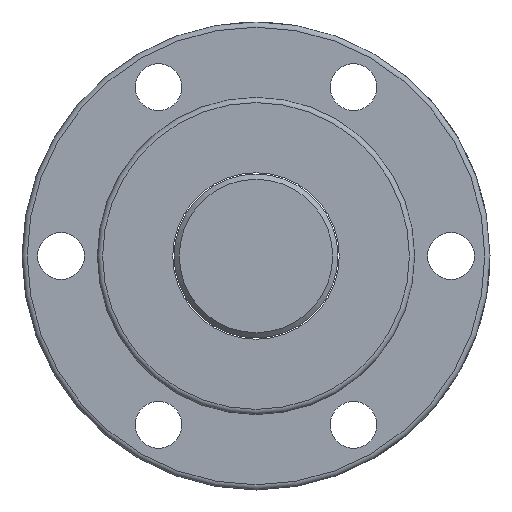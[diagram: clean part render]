
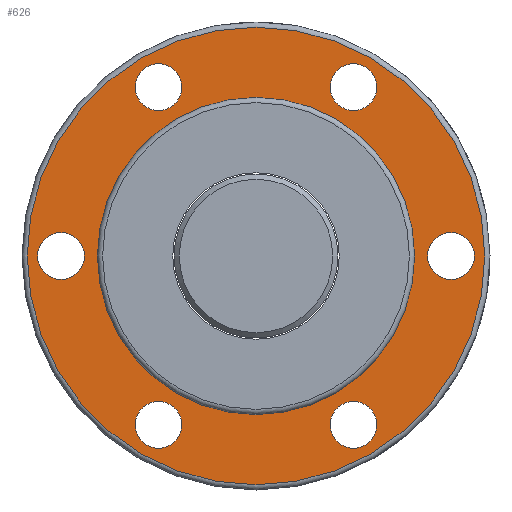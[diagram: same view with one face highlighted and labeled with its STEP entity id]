
A CAD part, left-side view. The second image highlights one B-rep face of the part: STEP entity #626.
In plain terms, the highlighted planar face has unit normal (-1, 0, 0).
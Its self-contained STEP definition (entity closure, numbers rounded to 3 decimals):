
#99=PLANE('',#749);
#194=ORIENTED_EDGE('',*,*,#275,.F.);
#195=ORIENTED_EDGE('',*,*,#284,.T.);
#196=ORIENTED_EDGE('',*,*,#274,.F.);
#197=ORIENTED_EDGE('',*,*,#270,.F.);
#198=ORIENTED_EDGE('',*,*,#266,.F.);
#199=ORIENTED_EDGE('',*,*,#262,.F.);
#200=ORIENTED_EDGE('',*,*,#258,.F.);
#201=ORIENTED_EDGE('',*,*,#254,.F.);
#254=EDGE_CURVE('',#318,#318,#367,.T.);
#258=EDGE_CURVE('',#322,#322,#371,.T.);
#262=EDGE_CURVE('',#326,#326,#375,.T.);
#266=EDGE_CURVE('',#330,#330,#379,.T.);
#270=EDGE_CURVE('',#334,#334,#383,.T.);
#274=EDGE_CURVE('',#338,#338,#387,.T.);
#275=EDGE_CURVE('',#339,#339,#388,.T.);
#284=EDGE_CURVE('',#342,#342,#397,.T.);
#318=VERTEX_POINT('',#1048);
#322=VERTEX_POINT('',#1059);
#326=VERTEX_POINT('',#1070);
#330=VERTEX_POINT('',#1081);
#334=VERTEX_POINT('',#1092);
#338=VERTEX_POINT('',#1103);
#339=VERTEX_POINT('',#1106);
#342=VERTEX_POINT('',#1123);
#367=CIRCLE('',#697,9.);
#371=CIRCLE('',#704,9.);
#375=CIRCLE('',#711,9.);
#379=CIRCLE('',#718,9.);
#383=CIRCLE('',#725,9.);
#387=CIRCLE('',#732,9.);
#388=CIRCLE('',#734,88.);
#397=CIRCLE('',#748,61.);
#472=EDGE_LOOP('',(#194));
#473=EDGE_LOOP('',(#195));
#474=EDGE_LOOP('',(#196));
#475=EDGE_LOOP('',(#197));
#476=EDGE_LOOP('',(#198));
#477=EDGE_LOOP('',(#199));
#478=EDGE_LOOP('',(#200));
#479=EDGE_LOOP('',(#201));
#565=FACE_BOUND('',#472,.T.);
#566=FACE_BOUND('',#473,.T.);
#567=FACE_BOUND('',#474,.T.);
#568=FACE_BOUND('',#475,.T.);
#569=FACE_BOUND('',#476,.T.);
#570=FACE_BOUND('',#477,.T.);
#571=FACE_BOUND('',#478,.T.);
#572=FACE_BOUND('',#479,.T.);
#626=ADVANCED_FACE('',(#565,#566,#567,#568,#569,#570,#571,#572),#99,.T.);
#697=AXIS2_PLACEMENT_3D('',#1047,#834,#835);
#704=AXIS2_PLACEMENT_3D('',#1058,#848,#849);
#711=AXIS2_PLACEMENT_3D('',#1069,#862,#863);
#718=AXIS2_PLACEMENT_3D('',#1080,#876,#877);
#725=AXIS2_PLACEMENT_3D('',#1091,#890,#891);
#732=AXIS2_PLACEMENT_3D('',#1102,#904,#905);
#734=AXIS2_PLACEMENT_3D('',#1105,#908,#909);
#748=AXIS2_PLACEMENT_3D('',#1122,#936,#937);
#749=AXIS2_PLACEMENT_3D('',#1124,#938,#939);
#834=DIRECTION('',(-1.,0.,0.));
#835=DIRECTION('',(0.,0.,1.));
#848=DIRECTION('',(-1.,0.,0.));
#849=DIRECTION('',(0.,0.,1.));
#862=DIRECTION('',(-1.,0.,0.));
#863=DIRECTION('',(0.,0.,1.));
#876=DIRECTION('',(-1.,0.,0.));
#877=DIRECTION('',(0.,0.,1.));
#890=DIRECTION('',(-1.,0.,0.));
#891=DIRECTION('',(0.,0.,1.));
#904=DIRECTION('',(-1.,0.,0.));
#905=DIRECTION('',(0.,0.,1.));
#908=DIRECTION('',(1.,0.,0.));
#909=DIRECTION('',(0.,0.,-1.));
#936=DIRECTION('',(1.,0.,0.));
#937=DIRECTION('',(0.,0.,-1.));
#938=DIRECTION('',(-1.,0.,0.));
#939=DIRECTION('',(0.,0.,1.));
#1047=CARTESIAN_POINT('',(-43.,75.,0.));
#1048=CARTESIAN_POINT('',(-43.,75.,9.));
#1058=CARTESIAN_POINT('',(-43.,-75.,0.));
#1059=CARTESIAN_POINT('',(-43.,-75.,9.));
#1069=CARTESIAN_POINT('',(-43.,37.5,-64.952));
#1070=CARTESIAN_POINT('',(-43.,37.5,-55.952));
#1080=CARTESIAN_POINT('',(-43.,-37.5,-64.952));
#1081=CARTESIAN_POINT('',(-43.,-37.5,-55.952));
#1091=CARTESIAN_POINT('',(-43.,-37.5,64.952));
#1092=CARTESIAN_POINT('',(-43.,-37.5,73.952));
#1102=CARTESIAN_POINT('',(-43.,37.5,64.952));
#1103=CARTESIAN_POINT('',(-43.,37.5,73.952));
#1105=CARTESIAN_POINT('',(-43.,0.,0.));
#1106=CARTESIAN_POINT('',(-43.,0.,-88.));
#1122=CARTESIAN_POINT('',(-43.,0.,0.));
#1123=CARTESIAN_POINT('',(-43.,0.,-61.));
#1124=CARTESIAN_POINT('',(-43.,74.5,0.));
